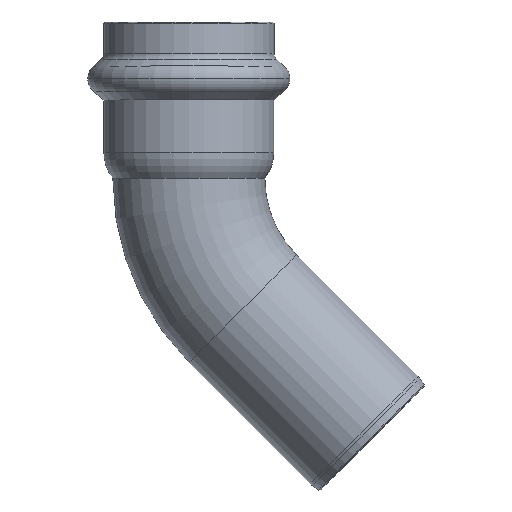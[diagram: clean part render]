
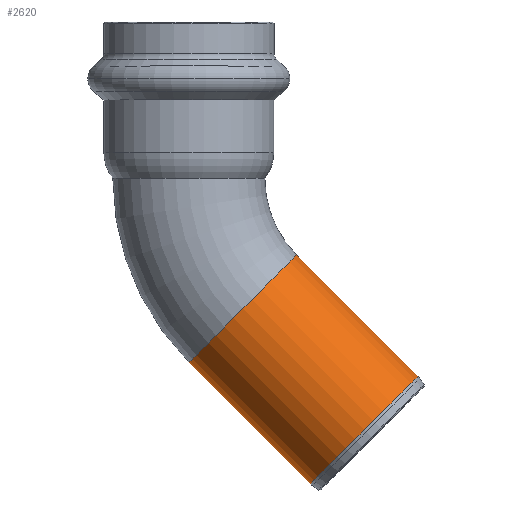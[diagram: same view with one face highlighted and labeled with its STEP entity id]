
A CAD part, top view. The second image highlights one B-rep face of the part: STEP entity #2620.
In plain terms, the highlighted cylindrical face has radius 14 mm (diameter 28 mm), a partial arc.
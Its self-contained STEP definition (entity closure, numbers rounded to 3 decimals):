
#870=CARTESIAN_POINT('',(40.965,11.946,0.));
#880=DIRECTION('',(0.707,-0.707,0.));
#890=DIRECTION('',(0.707,0.707,0.));
#900=AXIS2_PLACEMENT_3D('',#870,#880,#890);
#910=CIRCLE('',#900,14.);
#920=CARTESIAN_POINT('',(40.965,11.946,14.));
#930=VERTEX_POINT('',#920);
#940=CARTESIAN_POINT('',(31.065,2.046,
0.));
#950=VERTEX_POINT('',#940);
#960=EDGE_CURVE('',#930,#950,#910,.T.);
#1210=CARTESIAN_POINT('',(50.864,21.845,0.));
#1220=VERTEX_POINT('',#1210);
#1250=EDGE_CURVE('',#1220,#930,#910,.T.);
#2300=CARTESIAN_POINT('',(51.446,1.464,0.));
#2310=DIRECTION('',(-0.707,0.707,0.));
#2320=DIRECTION('',(0.707,0.707,0.));
#2330=AXIS2_PLACEMENT_3D('',#2300,#2310,#2320);
#2340=CYLINDRICAL_SURFACE('',#2330,14.);
#2350=CARTESIAN_POINT('',(61.346,11.364,0.));
#2360=DIRECTION('',(-0.707,0.707,0.));
#2370=VECTOR('',#2360,1.);
#2380=LINE('',#2350,#2370);
#2390=CARTESIAN_POINT('',(73.197,-0.488,0.));
#2400=VERTEX_POINT('',#2390);
#2410=EDGE_CURVE('',#2400,#1220,#2380,.T.);
#2420=ORIENTED_EDGE('',*,*,#2410,.T.);
#2430=CARTESIAN_POINT('',(63.298,-10.387,0.));
#2440=DIRECTION('',(0.707,-0.707,0.));
#2450=DIRECTION('',(0.707,0.707,0.));
#2460=AXIS2_PLACEMENT_3D('',#2430,#2440,#2450);
#2470=CIRCLE('',#2460,14.);
#2480=CARTESIAN_POINT('',(53.398,-20.287,0.));
#2490=VERTEX_POINT('',#2480);
#2500=EDGE_CURVE('',#2400,#2490,#2470,.T.);
#2510=ORIENTED_EDGE('',*,*,#2500,.F.);
#2520=CARTESIAN_POINT('',(41.547,-8.435,
0.));
#2530=DIRECTION('',(-0.707,0.707,0.));
#2540=VECTOR('',#2530,1.);
#2550=LINE('',#2520,#2540);
#2560=EDGE_CURVE('',#2490,#950,#2550,.T.);
#2570=ORIENTED_EDGE('',*,*,#2560,.F.);
#2580=ORIENTED_EDGE('',*,*,#960,.T.);
#2590=ORIENTED_EDGE('',*,*,#1250,.T.);
#2600=EDGE_LOOP('',(#2590,#2580,#2570,#2510,#2420));
#2610=FACE_OUTER_BOUND('',#2600,.T.);
#2620=ADVANCED_FACE('',(#2610),#2340,.T.);
